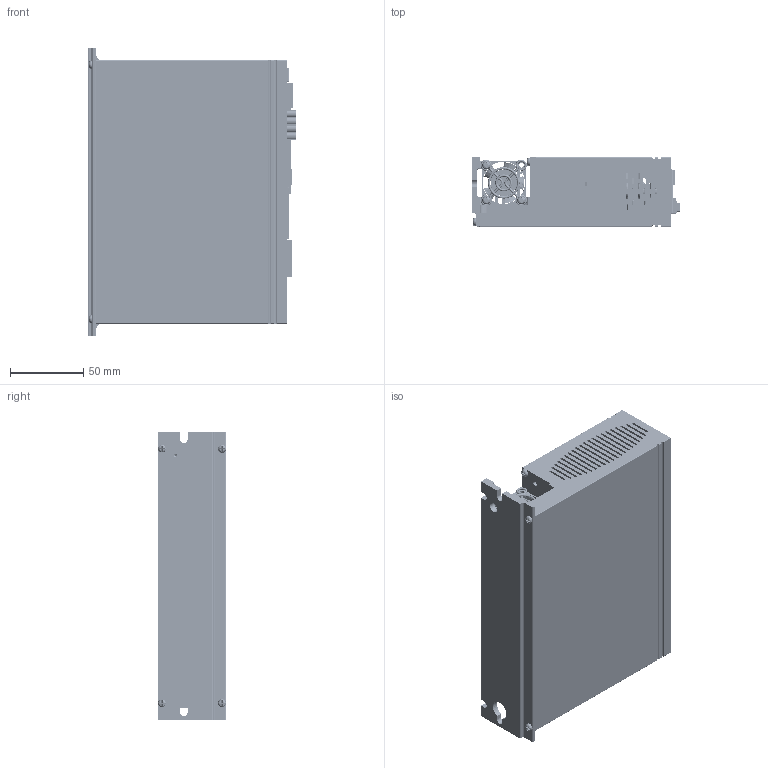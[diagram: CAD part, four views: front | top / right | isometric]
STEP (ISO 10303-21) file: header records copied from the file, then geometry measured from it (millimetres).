
FILE_DESCRIPTION((''),'2;1');
FILE_NAME('SW5_ISD00_ASM','2020-07-28T10:42:03',('Matteo Maccalli'),(''),'CREO PARAMETRIC BY PTC INC, 2019344','CREO PARAMETRIC BY PTC INC, 2019344','');
FILE_SCHEMA(('AUTOMOTIVE_DESIGN { 1 0 10303 214 1 1 1 1 }'));
Products named in the file (210): ISD00_DISSIPATORE-03; AD_00883-03_ISD00; SCATOLA_SW5_D-04; ACC_2E9X9E5; FAN-HOUSE-30X30X10-PROMOCO_FAN-; FAN-30X30X10-PROMOCO_FAN-KDE050; GRIGLIA_30X30; ACC_2E9X19; ISD00_EARTH_FIX-01; AD_01053_ISD00_BLK; BOARD-185; CPP_4X13X9_P10_1_2; CY204_1_ASM; CPP_4X13X9_P10; CY203_1_ASM; CY202_1_ASM; 79202-X02LF; JMP500_ASM; CE_35X30_P10; CE202_ASM; BOARD-38953; USER_LIBRARY-TSSOP-16-1_1_2; IC402_ASM; USER_LIBRARY-ARRAY-1206-4-58410; USER_LIBRARY-ARRAY-1206-4-68119; USER_LIBRARY-ARRAY-1206-4-70352; USER_LIBRARY-ARRAY-1206-4-76785; USER_LIBRARY-ARRAY-1206-4-58388_ASM; RN403_ASM; RN402_ASM; RN401_ASM; RN105_ASM; RN104_ASM; USER_LIBRARY-RES0603-1_1_2; R405_ASM; USER_LIBRARY-TSSOP-16-1; IC401_ASM; IC100_ASM; SW3DPS-0603_SMD_CAPACITOR_1_2; C401_ASM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
Assembly tree (241 placements, depth 8):
  SW5_ISD00_ASM
    ISD00_DISSIPATORE-03
    AD_00883-03_ISD00
    SCATOLA_SW5_D-04
    ACC_2E9X9E5  x4
    FAN-HOUSE-30X30X10-PROMOCO_FAN-
    FAN-30X30X10-PROMOCO_FAN-KDE050
    GRIGLIA_30X30
    ACC_2E9X19  x3
    ISD00_EARTH_FIX-01
    AD_01053_ISD00_BLK
    ASM0001_ASM
      PCB_ASM
        BOARD-185
        CY204_1_ASM
          CPP_4X13X9_P10_1_2
        CY203_1_ASM
          CPP_4X13X9_P10
        CY202_1_ASM
          CPP_4X13X9_P10
        JMP500_ASM
          79202-X02LF  x2
        CE202_ASM
          CE_35X30_P10
        VIS400-38854_ASM
          ISD00VIS-02_ASM
            BOARD-38953
            IC402_ASM
              USER_LIBRARY-TSSOP-16-1_1_2
            RN403_ASM
              USER_LIBRARY-ARRAY-1206-4-58388_ASM
                USER_LIBRARY-ARRAY-1206-4-58410
                USER_LIBRARY-ARRAY-1206-4-68119
                USER_LIBRARY-ARRAY-1206-4-70352
                USER_LIBRARY-ARRAY-1206-4-76785
            RN402_ASM
              USER_LIBRARY-ARRAY-1206-4-58388_ASM
                USER_LIBRARY-ARRAY-1206-4-58410
                USER_LIBRARY-ARRAY-1206-4-68119
                USER_LIBRARY-ARRAY-1206-4-70352
                USER_LIBRARY-ARRAY-1206-4-76785
            RN401_ASM
              USER_LIBRARY-ARRAY-1206-4-58388_ASM
                USER_LIBRARY-ARRAY-1206-4-58410
                USER_LIBRARY-ARRAY-1206-4-68119
                USER_LIBRARY-ARRAY-1206-4-70352
                USER_LIBRARY-ARRAY-1206-4-76785
            RN105_ASM
              USER_LIBRARY-ARRAY-1206-4-58388_ASM
                USER_LIBRARY-ARRAY-1206-4-58410
                USER_LIBRARY-ARRAY-1206-4-68119
                USER_LIBRARY-ARRAY-1206-4-70352
                USER_LIBRARY-ARRAY-1206-4-76785
            RN104_ASM
              USER_LIBRARY-ARRAY-1206-4-58388_ASM
                USER_LIBRARY-ARRAY-1206-4-58410
                USER_LIBRARY-ARRAY-1206-4-68119
                USER_LIBRARY-ARRAY-1206-4-70352
                USER_LIBRARY-ARRAY-1206-4-76785
            R405_ASM
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Bounding box: 142.78 x 47 x 196.6 mm (x, y, z)
Volume: 471955.2 mm3; surface area: 370696.5 mm2
Topology: 166 solids, 173 shells, 17442 faces, 48146 edges, 31339 vertices
Faces by surface type: plane 11618, cylinder 3951, extrusion 896, cone 534, bspline 212, sphere 122, torus 109
Entity records: 649094 total; most frequent: CARTESIAN_POINT 116402, ORIENTED_EDGE 77882, DIRECTION 69077, PRESENTATION_STYLE_ASSIGNMENT 43391, EDGE_CURVE 38955, STYLED_ITEM 35389, CURVE_STYLE 34907, VECTOR 28693
